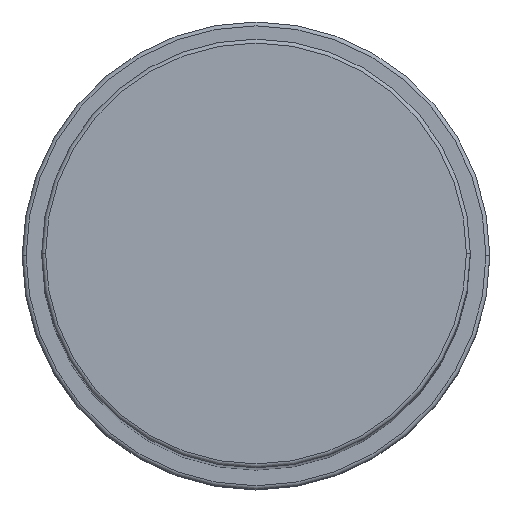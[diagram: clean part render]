
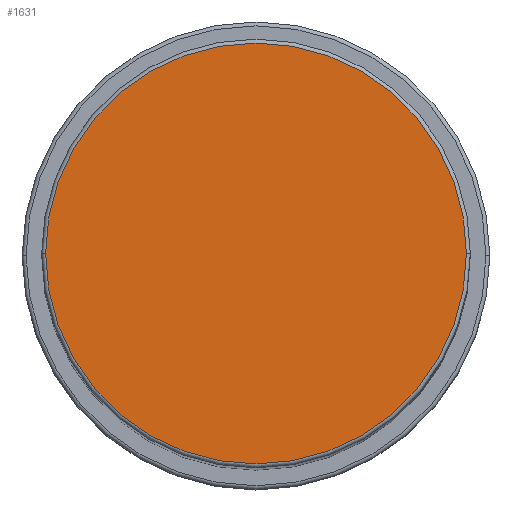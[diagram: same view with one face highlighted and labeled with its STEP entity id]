
A CAD part, top view. The second image highlights one B-rep face of the part: STEP entity #1631.
In plain terms, the highlighted planar face has unit normal (0, 0, 1).
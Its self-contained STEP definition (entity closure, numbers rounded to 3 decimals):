
#131 = VERTEX_POINT ( 'NONE', #203 ) ;
#135 = DIRECTION ( 'NONE',  ( 1., 0., 0. ) ) ;
#149 = CARTESIAN_POINT ( 'NONE',  ( 0., 0., 183. ) ) ;
#203 = CARTESIAN_POINT ( 'NONE',  ( 27., 0., 183. ) ) ;
#313 = ORIENTED_EDGE ( 'NONE', *, *, #1434, .T. ) ;
#363 = ORIENTED_EDGE ( 'NONE', *, *, #465, .T. ) ;
#465 = EDGE_CURVE ( 'NONE', #131, #601, #1229, .T. ) ;
#553 = DIRECTION ( 'NONE',  ( 0., 0., 1. ) ) ;
#601 = VERTEX_POINT ( 'NONE', #1349 ) ;
#665 = CARTESIAN_POINT ( 'NONE',  ( 0., 0., 183. ) ) ;
#767 = AXIS2_PLACEMENT_3D ( 'NONE', #665, #1368, #135 ) ;
#768 = CARTESIAN_POINT ( 'NONE',  ( 0., 0., 183. ) ) ;
#779 = DIRECTION ( 'NONE',  ( 0., 0., 1. ) ) ;
#995 = AXIS2_PLACEMENT_3D ( 'NONE', #149, #553, #1528 ) ;
#1186 = CIRCLE ( 'NONE', #767, 27. ) ;
#1209 = AXIS2_PLACEMENT_3D ( 'NONE', #768, #779, #1745 ) ;
#1229 = CIRCLE ( 'NONE', #1209, 27. ) ;
#1349 = CARTESIAN_POINT ( 'NONE',  ( -27., 0., 183. ) ) ;
#1368 = DIRECTION ( 'NONE',  ( 0., 0., 1. ) ) ;
#1404 = FACE_OUTER_BOUND ( 'NONE', #1445, .T. ) ;
#1434 = EDGE_CURVE ( 'NONE', #601, #131, #1186, .T. ) ;
#1445 = EDGE_LOOP ( 'NONE', ( #363, #313 ) ) ;
#1528 = DIRECTION ( 'NONE',  ( 1., 0., 0. ) ) ;
#1631 = ADVANCED_FACE ( 'NONE', ( #1404 ), #1795, .T. ) ;
#1745 = DIRECTION ( 'NONE',  ( 1., 0., 0. ) ) ;
#1795 = PLANE ( 'NONE',  #995 ) ;
